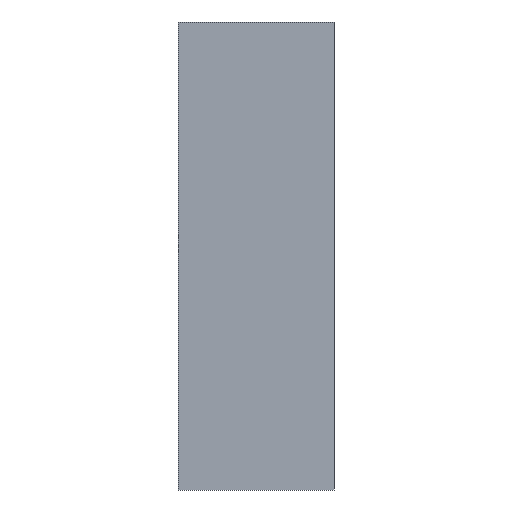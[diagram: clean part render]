
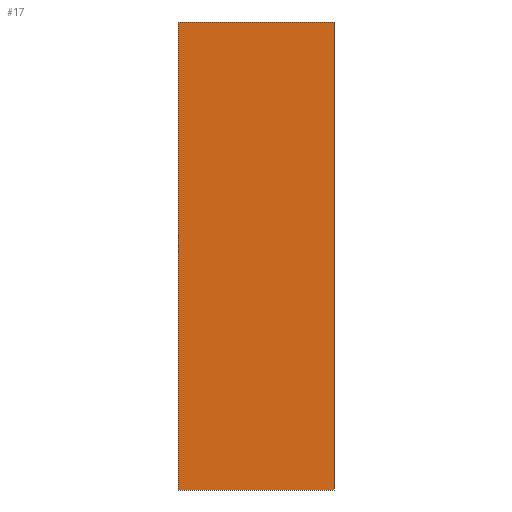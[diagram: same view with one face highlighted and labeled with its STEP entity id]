
A CAD part, left-side view. The second image highlights one B-rep face of the part: STEP entity #17.
In plain terms, the highlighted planar face has unit normal (-1, 0, 0).
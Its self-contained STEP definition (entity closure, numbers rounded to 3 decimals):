
#17 = ADVANCED_FACE('',(#18),#32,.F.);
#18 = FACE_BOUND('',#19,.F.);
#19 = EDGE_LOOP('',(#20,#55,#83,#111));
#20 = ORIENTED_EDGE('',*,*,#21,.F.);
#21 = EDGE_CURVE('',#22,#24,#26,.T.);
#22 = VERTEX_POINT('',#23);
#23 = CARTESIAN_POINT('',(-30.,-10.,0.));
#24 = VERTEX_POINT('',#25);
#25 = CARTESIAN_POINT('',(-30.,-10.,60.));
#26 = SURFACE_CURVE('',#27,(#31,#43),.PCURVE_S1.);
#27 = LINE('',#28,#29);
#28 = CARTESIAN_POINT('',(-30.,-10.,0.));
#29 = VECTOR('',#30,1.);
#30 = DIRECTION('',(0.,0.,1.));
#31 = PCURVE('',#32,#37);
#32 = PLANE('',#33);
#33 = AXIS2_PLACEMENT_3D('',#34,#35,#36);
#34 = CARTESIAN_POINT('',(-30.,-10.,0.));
#35 = DIRECTION('',(1.,0.,0.));
#36 = DIRECTION('',(0.,0.,1.));
#37 = DEFINITIONAL_REPRESENTATION('',(#38),#42);
#38 = LINE('',#39,#40);
#39 = CARTESIAN_POINT('',(0.,0.));
#40 = VECTOR('',#41,1.);
#41 = DIRECTION('',(1.,0.));
#42 = ( GEOMETRIC_REPRESENTATION_CONTEXT(2) 
PARAMETRIC_REPRESENTATION_CONTEXT() REPRESENTATION_CONTEXT('2D SPACE',''
  ) );
#43 = PCURVE('',#44,#49);
#44 = PLANE('',#45);
#45 = AXIS2_PLACEMENT_3D('',#46,#47,#48);
#46 = CARTESIAN_POINT('',(-30.,-10.,0.));
#47 = DIRECTION('',(0.,1.,0.));
#48 = DIRECTION('',(0.,0.,1.));
#49 = DEFINITIONAL_REPRESENTATION('',(#50),#54);
#50 = LINE('',#51,#52);
#51 = CARTESIAN_POINT('',(0.,0.));
#52 = VECTOR('',#53,1.);
#53 = DIRECTION('',(1.,0.));
#54 = ( GEOMETRIC_REPRESENTATION_CONTEXT(2) 
PARAMETRIC_REPRESENTATION_CONTEXT() REPRESENTATION_CONTEXT('2D SPACE',''
  ) );
#55 = ORIENTED_EDGE('',*,*,#56,.T.);
#56 = EDGE_CURVE('',#22,#57,#59,.T.);
#57 = VERTEX_POINT('',#58);
#58 = CARTESIAN_POINT('',(-30.,10.,0.));
#59 = SURFACE_CURVE('',#60,(#64,#71),.PCURVE_S1.);
#60 = LINE('',#61,#62);
#61 = CARTESIAN_POINT('',(-30.,-10.,0.));
#62 = VECTOR('',#63,1.);
#63 = DIRECTION('',(0.,1.,0.));
#64 = PCURVE('',#32,#65);
#65 = DEFINITIONAL_REPRESENTATION('',(#66),#70);
#66 = LINE('',#67,#68);
#67 = CARTESIAN_POINT('',(0.,0.));
#68 = VECTOR('',#69,1.);
#69 = DIRECTION('',(0.,-1.));
#70 = ( GEOMETRIC_REPRESENTATION_CONTEXT(2) 
PARAMETRIC_REPRESENTATION_CONTEXT() REPRESENTATION_CONTEXT('2D SPACE',''
  ) );
#71 = PCURVE('',#72,#77);
#72 = PLANE('',#73);
#73 = AXIS2_PLACEMENT_3D('',#74,#75,#76);
#74 = CARTESIAN_POINT('',(-30.,-10.,0.));
#75 = DIRECTION('',(0.,0.,1.));
#76 = DIRECTION('',(1.,0.,0.));
#77 = DEFINITIONAL_REPRESENTATION('',(#78),#82);
#78 = LINE('',#79,#80);
#79 = CARTESIAN_POINT('',(0.,0.));
#80 = VECTOR('',#81,1.);
#81 = DIRECTION('',(0.,1.));
#82 = ( GEOMETRIC_REPRESENTATION_CONTEXT(2) 
PARAMETRIC_REPRESENTATION_CONTEXT() REPRESENTATION_CONTEXT('2D SPACE',''
  ) );
#83 = ORIENTED_EDGE('',*,*,#84,.F.);
#84 = EDGE_CURVE('',#85,#57,#87,.T.);
#85 = VERTEX_POINT('',#86);
#86 = CARTESIAN_POINT('',(-30.,10.,60.));
#87 = SURFACE_CURVE('',#88,(#92,#99),.PCURVE_S1.);
#88 = LINE('',#89,#90);
#89 = CARTESIAN_POINT('',(-30.,10.,60.));
#90 = VECTOR('',#91,1.);
#91 = DIRECTION('',(0.,0.,-1.));
#92 = PCURVE('',#32,#93);
#93 = DEFINITIONAL_REPRESENTATION('',(#94),#98);
#94 = LINE('',#95,#96);
#95 = CARTESIAN_POINT('',(60.,-20.));
#96 = VECTOR('',#97,1.);
#97 = DIRECTION('',(-1.,0.));
#98 = ( GEOMETRIC_REPRESENTATION_CONTEXT(2) 
PARAMETRIC_REPRESENTATION_CONTEXT() REPRESENTATION_CONTEXT('2D SPACE',''
  ) );
#99 = PCURVE('',#100,#105);
#100 = PLANE('',#101);
#101 = AXIS2_PLACEMENT_3D('',#102,#103,#104);
#102 = CARTESIAN_POINT('',(-30.,10.,0.));
#103 = DIRECTION('',(0.,1.,0.));
#104 = DIRECTION('',(0.,0.,1.));
#105 = DEFINITIONAL_REPRESENTATION('',(#106),#110);
#106 = LINE('',#107,#108);
#107 = CARTESIAN_POINT('',(60.,0.));
#108 = VECTOR('',#109,1.);
#109 = DIRECTION('',(-1.,0.));
#110 = ( GEOMETRIC_REPRESENTATION_CONTEXT(2) 
PARAMETRIC_REPRESENTATION_CONTEXT() REPRESENTATION_CONTEXT('2D SPACE',''
  ) );
#111 = ORIENTED_EDGE('',*,*,#112,.F.);
#112 = EDGE_CURVE('',#24,#85,#113,.T.);
#113 = SURFACE_CURVE('',#114,(#118,#125),.PCURVE_S1.);
#114 = LINE('',#115,#116);
#115 = CARTESIAN_POINT('',(-30.,-10.,60.));
#116 = VECTOR('',#117,1.);
#117 = DIRECTION('',(0.,1.,0.));
#118 = PCURVE('',#32,#119);
#119 = DEFINITIONAL_REPRESENTATION('',(#120),#124);
#120 = LINE('',#121,#122);
#121 = CARTESIAN_POINT('',(60.,0.));
#122 = VECTOR('',#123,1.);
#123 = DIRECTION('',(0.,-1.));
#124 = ( GEOMETRIC_REPRESENTATION_CONTEXT(2) 
PARAMETRIC_REPRESENTATION_CONTEXT() REPRESENTATION_CONTEXT('2D SPACE',''
  ) );
#125 = PCURVE('',#126,#131);
#126 = PLANE('',#127);
#127 = AXIS2_PLACEMENT_3D('',#128,#129,#130);
#128 = CARTESIAN_POINT('',(-30.,-10.,60.));
#129 = DIRECTION('',(0.,0.,1.));
#130 = DIRECTION('',(1.,0.,0.));
#131 = DEFINITIONAL_REPRESENTATION('',(#132),#136);
#132 = LINE('',#133,#134);
#133 = CARTESIAN_POINT('',(0.,0.));
#134 = VECTOR('',#135,1.);
#135 = DIRECTION('',(0.,1.));
#136 = ( GEOMETRIC_REPRESENTATION_CONTEXT(2) 
PARAMETRIC_REPRESENTATION_CONTEXT() REPRESENTATION_CONTEXT('2D SPACE',''
  ) );
